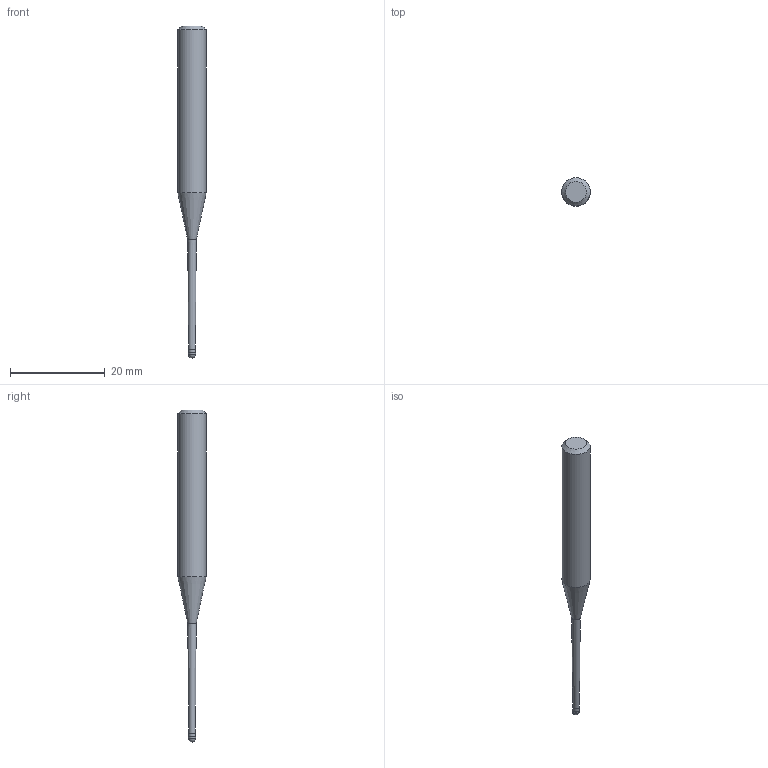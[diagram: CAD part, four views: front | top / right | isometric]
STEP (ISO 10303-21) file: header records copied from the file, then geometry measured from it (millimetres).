
FILE_DESCRIPTION((''),'2;1');
FILE_NAME('C:\Users\nsx150\AppData\Local\Temp\Mastercam 2021\E0ENTZRV18\TEMP.step','2021-09-02T09:56:22',(''),(''),'STEP Write','Mastercam 2021 ... CNC Software, Inc.','');
FILE_SCHEMA(('AUTOMOTIVE_DESIGN'));
Length unit declared in the file: millimetre
Products named in the file (1): None
Bounding box: 6 x 6 x 70 mm (x, y, z)
Volume: 1167 mm3; surface area: 932.8 mm2
Topology: 2 solids, 2 shells, 10 faces, 16 edges, 9 vertices
Faces by surface type: plane 3, cylinder 3, cone 3, sphere 1
Full cylindrical faces by diameter (mm): 1.39 x1, 1.5 x1, 6 x1
Entity records: 232 total; most frequent: DIRECTION 40, CARTESIAN_POINT 28, AXIS2_PLACEMENT_3D 20, ORIENTED_EDGE 16, EDGE_LOOP 16, STYLED_ITEM 13, ADVANCED_FACE 10, FACE_BOUND 9
